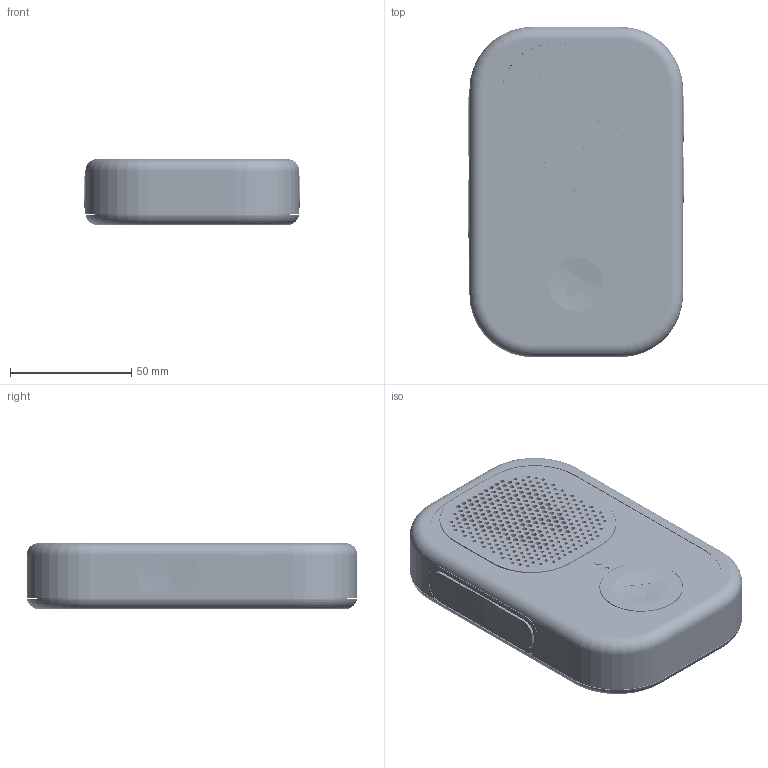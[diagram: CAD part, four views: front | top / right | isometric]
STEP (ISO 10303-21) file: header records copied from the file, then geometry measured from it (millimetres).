
FILE_DESCRIPTION(('Open CASCADE Model'),'2;1');
FILE_NAME('Open CASCADE Shape Model','2026-09-09T11:50:32',('Author'),( 'Open CASCADE'),'Open CASCADE STEP processor 7.7','Open CASCADE 7.7' ,'Unknown');
FILE_SCHEMA(('AUTOMOTIVE_DESIGN { 1 0 10303 214 1 1 1 1 }'));
Length unit declared in the file: millimetre
Products named in the file (124): Walkie_One_5_2_R8_main_REFERENCE_ASSEMBLY; 01_front_structural_tub; 01_front_structural_tub_part; 02_rear_structural_cover; 02_rear_structural_cover_part; 03_front_perimeter_bumper; 03_front_perimeter_bumper_part; 04_rear_perimeter_bumper; 04_rear_perimeter_bumper_part; 05_perforated_rigid_speaker_panel; 05_perforated_rigid_speaker_panel_part; 07_speaker_edge_cradle; 07_speaker_edge_cradle_part; 08_speaker_front_gasket; 08_speaker_front_gasket_part; 09_battery_tray; 09_battery_tray_part; 10_ptt_key; 10_ptt_key_part; 10_volume_minus_key; 10_volume_minus_key_part; 10_volume_plus_key; 10_volume_plus_key_part; 11_ptt_bumper_collar; 11_ptt_bumper_collar_part; 11_volume_minus_bumper_collar; 11_volume_minus_bumper_collar_part; 11_volume_plus_bumper_collar; 11_volume_plus_bumper_collar_part; 13_circular_play_key; 13_circular_play_key_part; 15_front_switch_holder; 15_front_switch_holder_part; 16_rgb_led_support_ring; 16_rgb_led_support_ring_part; 17_microphone_cradle; 17_microphone_cradle_part; 18_microphone_acoustic_gasket; 18_microphone_acoustic_gasket_part; 19_lte_antenna_seat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
Assembly tree (123 placements, depth 4):
  Walkie_One_5_2_R8_main_REFERENCE_ASSEMBLY
    Walkie_One_5_2_R8_main_REFERENCE_ASSEMBLY
      01_front_structural_tub
        01_front_structural_tub_part
      02_rear_structural_cover
        02_rear_structural_cover_part
      03_front_perimeter_bumper
        03_front_perimeter_bumper_part
      04_rear_perimeter_bumper
        04_rear_perimeter_bumper_part
      05_perforated_rigid_speaker_panel
        05_perforated_rigid_speaker_panel_part
      07_speaker_edge_cradle
        07_speaker_edge_cradle_part
      08_speaker_front_gasket
        08_speaker_front_gasket_part
      09_battery_tray
        09_battery_tray_part
      10_ptt_key
        10_ptt_key_part
      10_volume_minus_key
        10_volume_minus_key_part
      10_volume_plus_key
        10_volume_plus_key_part
      11_ptt_bumper_collar
        11_ptt_bumper_collar_part
      11_volume_minus_bumper_collar
        11_volume_minus_bumper_collar_part
      11_volume_plus_bumper_collar
        11_volume_plus_bumper_collar_part
      13_circular_play_key
        13_circular_play_key_part
      15_front_switch_holder
        15_front_switch_holder_part
      16_rgb_led_support_ring
        16_rgb_led_support_ring_part
      17_microphone_cradle
        17_microphone_cradle_part
      18_microphone_acoustic_gasket
        18_microphone_acoustic_gasket_part
      19_lte_antenna_seat
        19_lte_antenna_seat_part
      21_ptt_grip_pad
        21_ptt_grip_pad_part
      21_volume_minus_grip_pad
        21_volume_minus_grip_pad_part
      21_volume_plus_grip_pad
        21_volume_plus_grip_pad_part
      27_offset_status_light_guide
        27_offset_status_light_guide_part
      28_acoustic_mesh
        28_acoustic_mesh_part
      29_microphone_PSA
        29_microphone_PSA_part
      31_play_seat_shim_1
        31_play_seat_shim_1_part
      31_play_seat_shim_2
        31_play_seat_shim_2_part
      32_play_stop_shim
        32_play_stop_shim_part
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Bounding box: 89.16 x 136 x 27.2 mm (x, y, z)
Volume: 122876.7 mm3; surface area: 175986.7 mm2
Topology: 407 solids, 414 shells, 22999 faces, 48511 edges, 26509 vertices
Faces by surface type: plane 19115, cylinder 2288, bspline 1442, torus 90, cone 32, sphere 32
Full cylindrical faces by diameter (mm): 0.3 x59, 0.375 x1, 0.5 x1, 0.75 x4, 0.813 x5, 0.9 x8, 1.6 x157, 1.7 x10, 1.8 x2, 1.96 x10, 2 x111, 2.2 x62, 2.8 x4, 3 x1, 3.4 x1, 3.5 x2, 3.7 x8, 5 x2, 5.2 x2, 5.3 x1, 5.4 x2, 6.2 x1, 7 x1, 8 x1, 8.4 x1, 34 x1, 34.6 x1, 36.4 x2, 39.6 x1
Entity records: 1272107 total; most frequent: CARTESIAN_POINT 282535, DIRECTION 179473, LINE 125463, VECTOR 125463, ORIENTED_EDGE 96932, PCURVE 96932, DEFINITIONAL_REPRESENTATION 96932, EDGE_CURVE 48466
